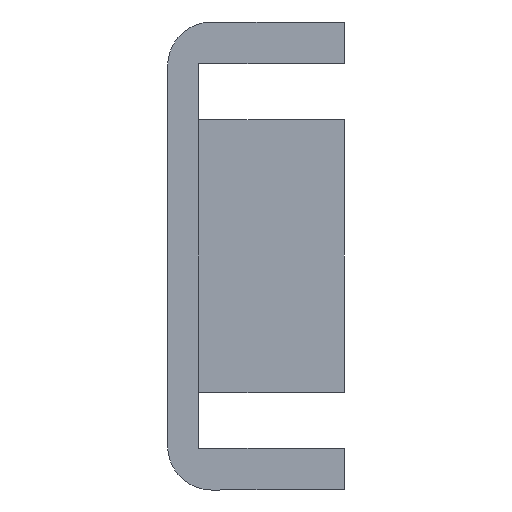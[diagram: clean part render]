
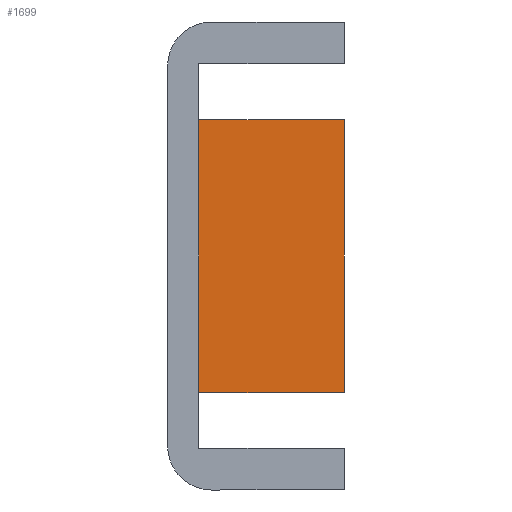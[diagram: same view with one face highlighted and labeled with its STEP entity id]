
A CAD part, front view. The second image highlights one B-rep face of the part: STEP entity #1699.
In plain terms, the highlighted planar face has unit normal (0, -1, 0).
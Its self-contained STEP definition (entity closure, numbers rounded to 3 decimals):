
#34 = EDGE_CURVE ( 'NONE', #570, #554, #422, .T. ) ;
#64 = ORIENTED_EDGE ( 'NONE', *, *, #1248, .F. ) ;
#65 = ORIENTED_EDGE ( 'NONE', *, *, #1239, .T. ) ;
#182 = CARTESIAN_POINT ( 'NONE',  ( 0., -124.75, 5.25 ) ) ;
#183 = DIRECTION ( 'NONE',  ( -1., 0., 0. ) ) ;
#201 = CARTESIAN_POINT ( 'NONE',  ( 0., -124.75, -5.25 ) ) ;
#202 = DIRECTION ( 'NONE',  ( -1., 0., 0. ) ) ;
#203 = CARTESIAN_POINT ( 'NONE',  ( 0., -124.75, -5.25 ) ) ;
#204 = DIRECTION ( 'NONE',  ( 0., 0., -1. ) ) ;
#422 = LINE ( 'NONE', #562, #427 ) ;
#427 = VECTOR ( 'NONE', #557, 1000. ) ;
#526 = VERTEX_POINT ( 'NONE', #725 ) ;
#532 = VERTEX_POINT ( 'NONE', #727 ) ;
#554 = VERTEX_POINT ( 'NONE', #733 ) ;
#557 = DIRECTION ( 'NONE',  ( 0., 0., -1. ) ) ;
#562 = CARTESIAN_POINT ( 'NONE',  ( -5.6, -124.75, -5.25 ) ) ;
#570 = VERTEX_POINT ( 'NONE', #739 ) ;
#725 = CARTESIAN_POINT ( 'NONE',  ( 0., -124.75, -5.25 ) ) ;
#727 = CARTESIAN_POINT ( 'NONE',  ( 0., -124.75, 5.25 ) ) ;
#733 = CARTESIAN_POINT ( 'NONE',  ( -5.6, -124.75, -5.25 ) ) ;
#739 = CARTESIAN_POINT ( 'NONE',  ( -5.6, -124.75, 5.25 ) ) ;
#857 = LINE ( 'NONE', #182, #859 ) ;
#859 = VECTOR ( 'NONE', #183, 1000. ) ;
#873 = LINE ( 'NONE', #201, #874 ) ;
#874 = VECTOR ( 'NONE', #202, 1000. ) ;
#875 = LINE ( 'NONE', #203, #876 ) ;
#876 = VECTOR ( 'NONE', #204, 1000. ) ;
#1203 = AXIS2_PLACEMENT_3D ( 'NONE', #1388, #1391, #1392 ) ;
#1239 = EDGE_CURVE ( 'NONE', #532, #570, #857, .T. ) ;
#1247 = EDGE_CURVE ( 'NONE', #526, #554, #873, .T. ) ;
#1248 = EDGE_CURVE ( 'NONE', #532, #526, #875, .T. ) ;
#1388 = CARTESIAN_POINT ( 'NONE',  ( 0., -124.75, -5.25 ) ) ;
#1389 = PLANE ( 'NONE',  #1203 ) ;
#1391 = DIRECTION ( 'NONE',  ( 0., 1., 0. ) ) ;
#1392 = DIRECTION ( 'NONE',  ( -1., 0., 0. ) ) ;
#1437 = FACE_OUTER_BOUND ( 'NONE', #1493, .T. ) ;
#1493 = EDGE_LOOP ( 'NONE', ( #1789, #1790, #64, #65 ) ) ;
#1699 = ADVANCED_FACE ( 'NONE', ( #1437 ), #1389, .F. ) ;
#1789 = ORIENTED_EDGE ( 'NONE', *, *, #34, .T. ) ;
#1790 = ORIENTED_EDGE ( 'NONE', *, *, #1247, .F. ) ;
